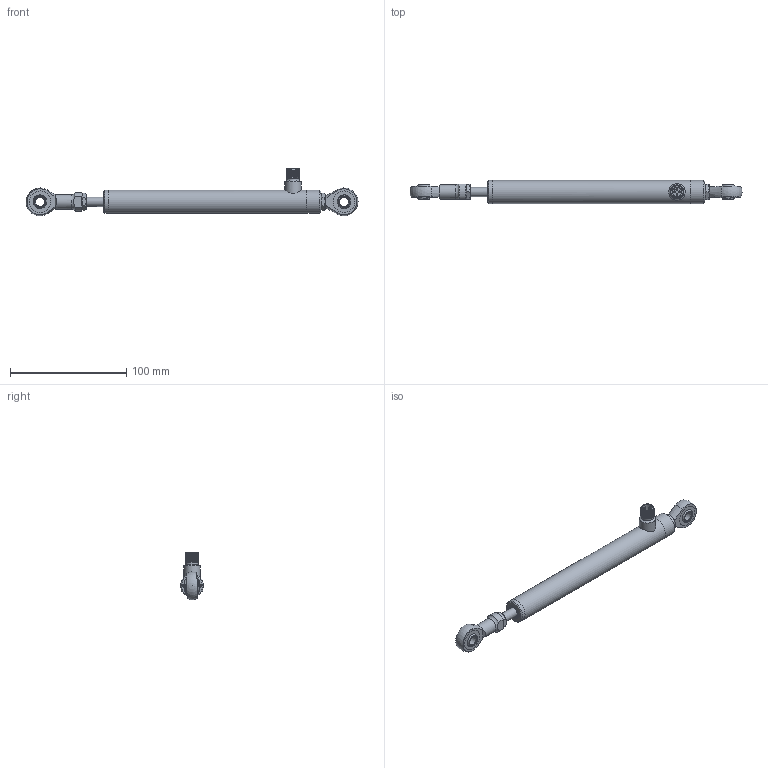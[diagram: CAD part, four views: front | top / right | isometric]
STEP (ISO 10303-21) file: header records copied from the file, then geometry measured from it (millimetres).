
FILE_DESCRIPTION( ( 'STEP AP214' ), '1' );
FILE_NAME( 'N:/Engineering/CAD_Solid/LVDT/SL/Kunden-3D-Modell/SL50-G-SR.stp', '2011-12-12T15:03:50', ( ' ' ), ( ' ' ), 'XStep 1.0', ' ', ' ' );
FILE_SCHEMA( ( 'CONFIG_CONTROL_DESIGN) ( )' ) );
Length unit declared in the file: metre
Products named in the file (9): 1; 2; 3; 4; 5; 6; 7; 8; 9
Bounding box: 286 x 20 x 40.99 mm (x, y, z)
Volume: 1908.6 mm3; surface area: 22537.3 mm2
Topology: 2 solids, 98 shells, 110 faces, 472 edges, 424 vertices
Faces by surface type: plane 44, cylinder 30, cone 25, sphere 6, bspline 4, torus 1
Full cylindrical faces by diameter (mm): 2 x4, 8 x3, 10.5 x1, 12 x1, 12.5 x1, 14 x1, 20 x3
Entity records: 9896 total; most frequent: CARTESIAN_POINT 5656, DIRECTION 709, ORIENTED_EDGE 401, EDGE_CURVE 389, VERTEX_POINT 389, AXIS2_PLACEMENT_3D 302, CIRCLE 185, EDGE_LOOP 169
